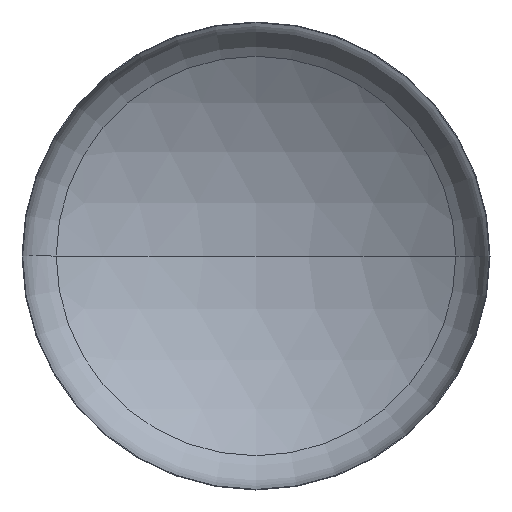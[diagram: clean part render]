
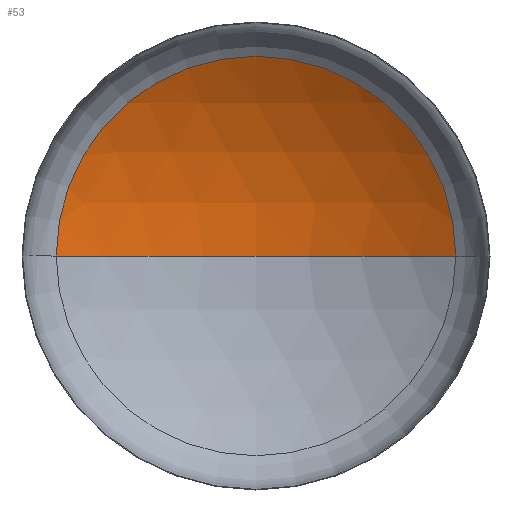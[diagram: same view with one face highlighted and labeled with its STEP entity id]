
A CAD part, front view. The second image highlights one B-rep face of the part: STEP entity #53.
In plain terms, the highlighted spherical face has radius 1920 mm.
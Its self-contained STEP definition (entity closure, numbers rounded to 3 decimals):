
#7 = EDGE_LOOP ( 'NONE', ( #128, #117, #41 ) ) ;
#19 = AXIS2_PLACEMENT_3D ( 'NONE', #244, #239, #243 ) ;
#24 = AXIS2_PLACEMENT_3D ( 'NONE', #91, #145, #319 ) ;
#27 = AXIS2_PLACEMENT_3D ( 'NONE', #62, #55, #188 ) ;
#41 = ORIENTED_EDGE ( 'NONE', *, *, #78, .T. ) ;
#53 = ADVANCED_FACE ( 'NONE', ( #179 ), #242, .F. ) ;
#54 = AXIS2_PLACEMENT_3D ( 'NONE', #268, #299, #269 ) ;
#55 = DIRECTION ( 'NONE',  ( 0., -1., 0. ) ) ;
#62 = CARTESIAN_POINT ( 'NONE',  ( 0., 332.935, 0. ) ) ;
#73 = VERTEX_POINT ( 'NONE', #315 ) ;
#78 = EDGE_CURVE ( 'NONE', #73, #129, #337, .T. ) ;
#83 = EDGE_CURVE ( 'NONE', #250, #73, #134, .T. ) ;
#91 = CARTESIAN_POINT ( 'NONE',  ( 0., -1290.943, 0. ) ) ;
#99 = EDGE_CURVE ( 'NONE', #250, #129, #271, .T. ) ;
#117 = ORIENTED_EDGE ( 'NONE', *, *, #83, .T. ) ;
#128 = ORIENTED_EDGE ( 'NONE', *, *, #99, .F. ) ;
#129 = VERTEX_POINT ( 'NONE', #201 ) ;
#134 = CIRCLE ( 'NONE', #24, 1920. ) ;
#145 = DIRECTION ( 'NONE',  ( 0., 0., -1. ) ) ;
#179 = FACE_OUTER_BOUND ( 'NONE', #7, .T. ) ;
#188 = DIRECTION ( 'NONE',  ( 1., 0., 0. ) ) ;
#198 = CARTESIAN_POINT ( 'NONE',  ( 0., 629.057, 0. ) ) ;
#201 = CARTESIAN_POINT ( 'NONE',  ( -1024.413, 332.935, 0. ) ) ;
#239 = DIRECTION ( 'NONE',  ( 0., 0., 1. ) ) ;
#242 = SPHERICAL_SURFACE ( 'NONE', #54, 1920. ) ;
#243 = DIRECTION ( 'NONE',  ( 1., 0., 0. ) ) ;
#244 = CARTESIAN_POINT ( 'NONE',  ( 0., -1290.943, 0. ) ) ;
#250 = VERTEX_POINT ( 'NONE', #198 ) ;
#268 = CARTESIAN_POINT ( 'NONE',  ( 0., -1290.943, 0. ) ) ;
#269 = DIRECTION ( 'NONE',  ( -1., 0., 0. ) ) ;
#271 = CIRCLE ( 'NONE', #19, 1920. ) ;
#299 = DIRECTION ( 'NONE',  ( 0., 0., -1. ) ) ;
#315 = CARTESIAN_POINT ( 'NONE',  ( 1024.413, 332.935, 0. ) ) ;
#319 = DIRECTION ( 'NONE',  ( -1., 0., 0. ) ) ;
#337 = CIRCLE ( 'NONE', #27, 1024.413 ) ;
